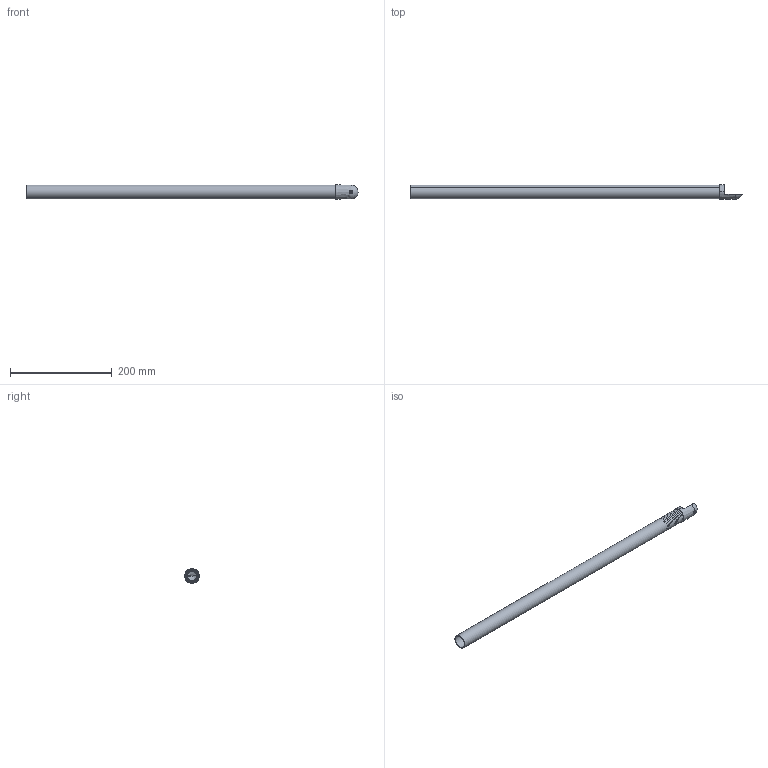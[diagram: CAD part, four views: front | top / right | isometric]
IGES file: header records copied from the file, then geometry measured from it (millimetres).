
Start section: SolidWorks IGES file using analytic representation for surfaces
Global section: file name: \\SERVER3\Design\_New Design Drive Folder List\_Design Vault\AAI\Modular Round Tube Connectors\Solidworks Models\Demonstrations\25. Assemblies\Modular Connectors\1. End Connectors\End Connectors Solid Models\Single Sided Clevis Connector with Threads.IGS; native system: SolidWorks 2013; preprocessor: SolidWorks 2013; author: tbraun; date: 130819.103809; units: inch
Bounding box: 653.96 x 28.57 x 28.57 mm (x, y, z)
Surface area: 113974.1 mm2 (no closed solid volume)
Topology: 0 solids, 0 shells, 237 faces, 3020 edges, 3018 vertices
Faces by surface type: bspline 125, revolution 112
